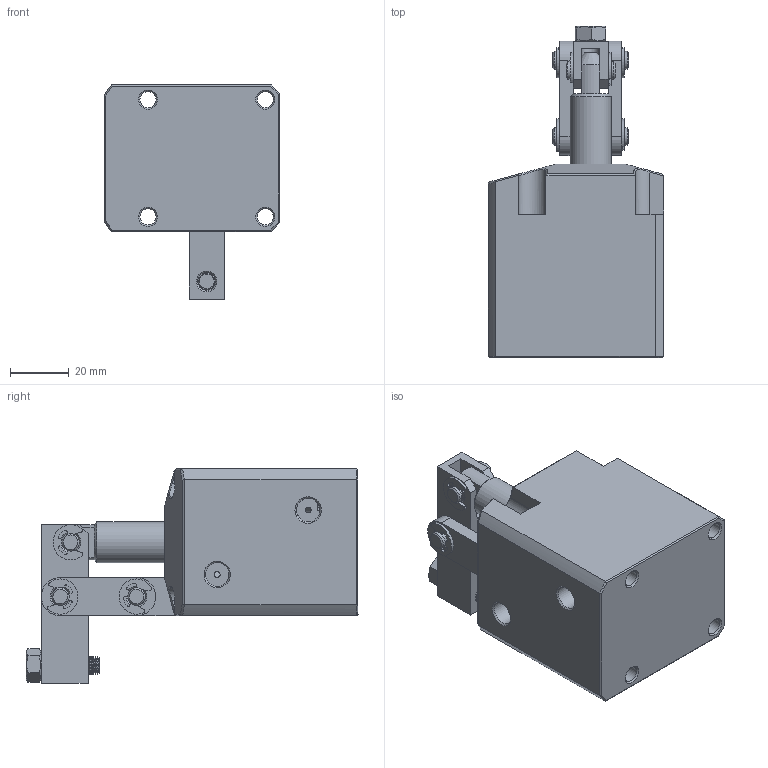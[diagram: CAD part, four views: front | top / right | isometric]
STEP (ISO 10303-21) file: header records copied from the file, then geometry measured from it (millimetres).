
FILE_DESCRIPTION(/* description */ ('STEP AP214'),/* implementation_level */ '2;1');
FILE_NAME(/* name */ 'D:\Vault_2016\Projekty\Clamptek\Hydraulic\CBLU\CBLU-30\STEP\CBLU-30L.stp',/* time_stamp */ '2021-05-06T12:11:57+02:00',/* author */ ('user'),/* organization */ (''),/* preprocessor_version */ 'ST-DEVELOPER v18.1',/* originating_system */ 'Autodesk Inventor 2021',/* authorisation */ '');
FILE_SCHEMA (('AUTOMOTIVE_DESIGN { 1 0 10303 214 3 1 1 }'));
Length unit declared in the file: millimetre
Products named in the file (10): CBLU-30L; ±¾ÌåCL_1_2_1; 30Á¬¸Ë_2_1; hex nuts, style 1-grades ab gb_GB_FASTENER_NUT_SNAB1 M6-N_1_1; hexagon socket head cap screws gb_GB_FASTENER_SCREWS_HSHCS M6X25-S_1_
1_1; ³¤ÏúÖá_1_1_1; 30¶ÌÏúÖá_2_1; 30»îÈû¸Ë_1_1_1_1; 30Ñ¹°å_1_1; e rings gb_GB_CONNECTING_PIECE_RINGS_HR 6_1_1_1
Assembly tree (16 placements, depth 2):
  CBLU-30L
    ±¾ÌåCL_1_2_1
    30Á¬¸Ë_2_1  x2
    hex nuts, style 1-grades ab gb_GB_FASTENER_NUT_SNAB1 M6-N_1_1
    hexagon socket head cap screws gb_GB_FASTENER_SCREWS_HSHCS M6X25-S_1_
1_1
    ³¤ÏúÖá_1_1_1  x2
    e rings gb_GB_CONNECTING_PIECE_RINGS_HR 6_1_1_1  x6
    30¶ÌÏúÖá_2_1
    30»îÈû¸Ë_1_1_1_1
    30Ñ¹°å_1_1
Bounding box: 60 x 113.2 x 73 mm (x, y, z)
Volume: 185528.6 mm3; surface area: 45726.7 mm2
Topology: 17 solids, 17 shells, 458 faces, 1164 edges, 757 vertices
Faces by surface type: cylinder 163, plane 163, cone 120, bspline 12
Full cylindrical faces by diameter (mm): 2 x2, 2.5 x1, 4.9 x3, 4.917 x1, 5 x3, 5.5 x4, 6 x56, 8 x2, 14 x2, 30 x2, 36 x1, 37 x1
Entity records: 11618 total; most frequent: CARTESIAN_POINT 2826, DIRECTION 1876, ORIENTED_EDGE 1690, EDGE_CURVE 845, AXIS2_PLACEMENT_3D 737, VERTEX_POINT 545, LINE 402, VECTOR 402
